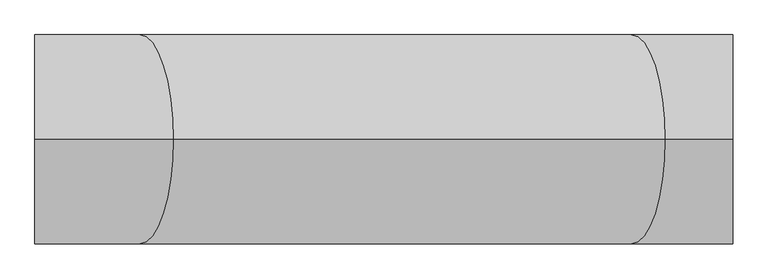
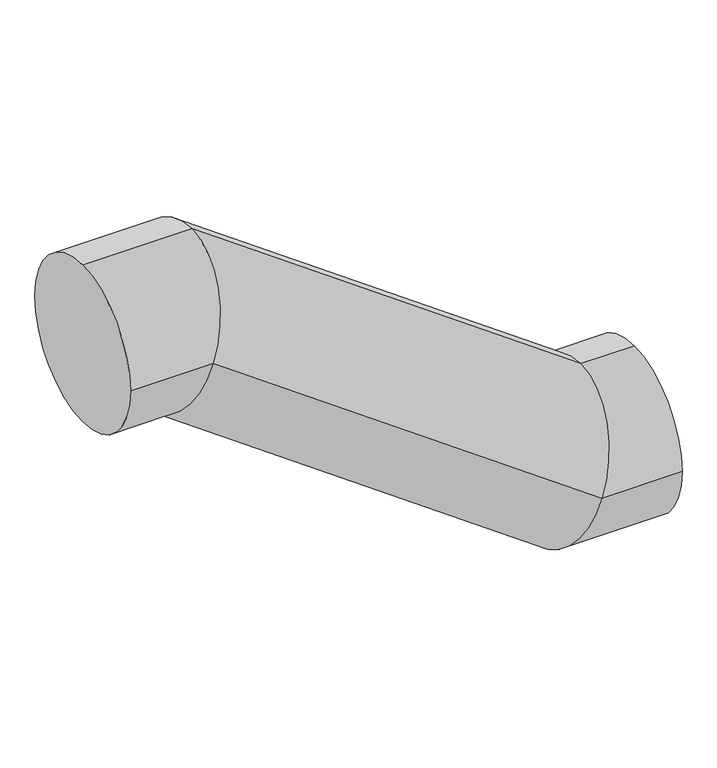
"""IFC4 building model written with IfcOpenShell, lengths in millimetres: duct fitting geometry, BL_УткаВоздуховодов_Круглая : Ниппельное соединение."""

from ifc_helpers import new_model, si_unit, frame, origin, place, context, project, spatial, circle_curve, ellipse_curve, source, transform, mapped, element, save
from ifc_brep_helpers import plane_surface, cylinder_surface, advanced_brep


def duct_fitting_5b7d299d(model_context):
    return source(origin(), model_context, "Body", "AdvancedBrep", [
        advanced_brep(
        [(0.0, 150.0, 0.0), (0.0, 0.0, -150.0), (0.0, -150.0, 0.0), (0.0, 0.0, 150.0), (101.7994324, 0.0, -150.0), (150.0, -150.0, 0.0), (198.2005676, 0.0, 150.0), (806.5994324, 0.0, -655.113589), (854.8, -150.0, -505.113589), (903.0005676, 0.0, -355.113589), (1000.0, 150.0, -505.113589), (1000.0, 0.0, -355.113589), (1000.0, -150.0, -505.113589), (1000.0, 0.0, -655.113589), (150.0, 150.0, 0.0), (854.8, 150.0, -505.113589)],
        [
            (0, 1, circle_curve(frame((0.0, 0.0, 0.0), z_axis=(-1.0, 0.0, 0.0), x_axis=(0.0, 0.0, 1.0)), 150.0)),
            (1, 2, circle_curve(frame((0.0, 0.0, 0.0), z_axis=(-1.0, 0.0, 0.0), x_axis=(0.0, 0.0, 1.0)), 150.0)),
            (2, 3, circle_curve(frame((0.0, 0.0, 0.0), z_axis=(-1.0, 0.0, 0.0), x_axis=(0.0, 0.0, 1.0)), 150.0)),
            (3, 0, circle_curve(frame((0.0, 0.0, 0.0), z_axis=(-1.0, 0.0, 0.0), x_axis=(0.0, 0.0, 1.0)), 150.0)),
            (1, 4),
            (4, 5, ellipse_curve(frame((150.0, 0.0, 0.0), z_axis=(-0.9520539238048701, 0.0, 0.30593026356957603), x_axis=(-0.30593026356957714, 0.0, -0.9520539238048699)), 157.5541009, 150.0)),
            (5, 2),
            (5, 6, ellipse_curve(frame((150.0, 0.0, 0.0), z_axis=(-0.9520539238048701, 0.0, 0.30593026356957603), x_axis=(-0.30593026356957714, 0.0, -0.9520539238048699)), 157.5541009, 150.0)),
            (6, 3),
            (4, 7),
            (7, 8, ellipse_curve(frame((854.8, 0.0, -505.113589), z_axis=(-0.9520539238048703, 0.0, 0.30593026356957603), x_axis=(0.30593026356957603, 0.0, 0.9520539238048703)), 157.5541009, 150.0)),
            (8, 5),
            (8, 9, ellipse_curve(frame((854.8, 0.0, -505.113589), z_axis=(-0.9520539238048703, 0.0, 0.30593026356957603), x_axis=(0.30593026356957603, 0.0, 0.9520539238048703)), 157.5541009, 150.0)),
            (9, 6),
            (10, 11, circle_curve(frame((1000.0, 0.0, -505.113589), z_axis=(1.0, 0.0, 0.0), x_axis=(0.0, 0.0, 1.0)), 150.0)),
            (11, 12, circle_curve(frame((1000.0, 0.0, -505.113589), z_axis=(1.0, 0.0, 0.0), x_axis=(0.0, 0.0, 1.0)), 150.0)),
            (12, 13, circle_curve(frame((1000.0, 0.0, -505.113589), z_axis=(1.0, 0.0, 0.0), x_axis=(0.0, 0.0, 1.0)), 150.0)),
            (13, 10, circle_curve(frame((1000.0, 0.0, -505.113589), z_axis=(1.0, 0.0, 0.0), x_axis=(0.0, 0.0, 1.0)), 150.0)),
            (7, 13),
            (12, 8),
            (11, 9),
            (6, 14, ellipse_curve(frame((150.0, 0.0, 0.0), z_axis=(-0.9520539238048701, 0.0, 0.30593026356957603), x_axis=(-0.30593026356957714, 0.0, -0.9520539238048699)), 157.5541009, 150.0)),
            (14, 0),
            (14, 4, ellipse_curve(frame((150.0, 0.0, 0.0), z_axis=(-0.9520539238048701, 0.0, 0.30593026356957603), x_axis=(-0.30593026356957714, 0.0, -0.9520539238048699)), 157.5541009, 150.0)),
            (9, 15, ellipse_curve(frame((854.8, 0.0, -505.113589), z_axis=(-0.9520539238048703, 0.0, 0.30593026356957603), x_axis=(0.30593026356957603, 0.0, 0.9520539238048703)), 157.5541009, 150.0)),
            (15, 14),
            (15, 7, ellipse_curve(frame((854.8, 0.0, -505.113589), z_axis=(-0.9520539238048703, 0.0, 0.30593026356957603), x_axis=(0.30593026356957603, 0.0, 0.9520539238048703)), 157.5541009, 150.0)),
            (10, 15),
        ],
        [
            plane_surface(frame((0.0, 0.0, 0.0), z_axis=(-1.0, 0.0, 0.0), x_axis=(0.0, 1.0, 0.0))),
            cylinder_surface(frame((0.0, 0.0, 0.0), z_axis=(-1.0, 0.0, 0.0), x_axis=(0.0, 0.0, 1.0)), 150.0),
            cylinder_surface(frame((150.0, 0.0, 0.0), z_axis=(-0.8128133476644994, 0.0, 0.5825242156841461), x_axis=(0.5825242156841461, 0.0, 0.8128133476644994)), 150.0),
            plane_surface(frame((1000.0, 0.0, -505.113589), z_axis=(1.0, 0.0, 0.0), x_axis=(0.0, 1.0, 0.0))),
            cylinder_surface(frame((854.8, 0.0, -505.113589), z_axis=(-1.0, 0.0, 0.0), x_axis=(0.0, 0.0, 1.0)), 150.0),
        ],
        [
            (0, [[1, 2, 3, 4]]),
            (1, [[5, 6, 7, -2]]),
            (1, [[-7, 8, 9, -3]]),
            (2, [[10, 11, 12, -6]]),
            (2, [[-12, 13, 14, -8]]),
            (3, [[15, 16, 17, 18]]),
            (4, [[19, -17, 20, -11]]),
            (4, [[-20, -16, 21, -13]]),
            (1, [[-9, 22, 23, -4]]),
            (1, [[-23, 24, -5, -1]]),
            (2, [[-14, 25, 26, -22]]),
            (2, [[-26, 27, -10, -24]]),
            (4, [[-21, -15, 28, -25]]),
            (4, [[-28, -18, -19, -27]]),
        ],
    ),
    ])


if __name__ == "__main__":
    model = new_model("IFC4")
    model_context = context("Model", 3, world=origin())
    ifc_project = project(units=[si_unit("LENGTHUNIT", "METRE", prefix="MILLI")], contexts=[model_context])
    site = spatial("IfcSite", under=ifc_project)
    building = spatial("IfcBuilding", under=site)
    placement = place(None, origin())
    duct_fitting_shape = duct_fitting_5b7d299d(model_context)
    element("IfcDuctFitting", 1, ObjectType="BL_УткаВоздуховодов_Круглая : Ниппельное соединение", at=placement, inside=building, context=model_context, shape_type="MappedRepresentation", body=[
        mapped(duct_fitting_shape, transform((0.0, 0.0, 0.0), x_axis=(1.0, 0.0, 0.0), y_axis=(0.0, 1.0, 0.0), z_axis=(0.0, 0.0, 1.0))),
    ])
    save(model, "model.ifc")
